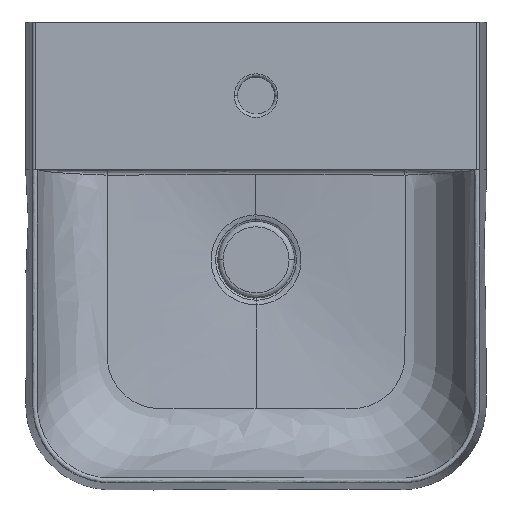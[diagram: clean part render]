
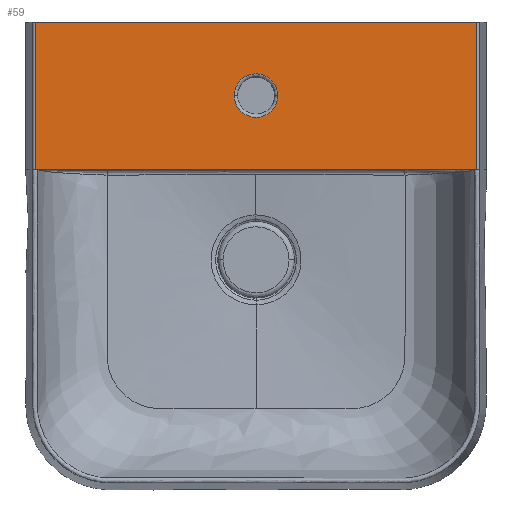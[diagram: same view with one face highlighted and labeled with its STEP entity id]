
A CAD part, top view. The second image highlights one B-rep face of the part: STEP entity #59.
In plain terms, the highlighted planar face has unit normal (0, 0, 1).
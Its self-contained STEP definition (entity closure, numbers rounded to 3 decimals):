
#59=ADVANCED_FACE('',(#127,#125),#1013,.T.);
#125=FACE_BOUND('',#194,.T.);
#127=FACE_OUTER_BOUND('',#193,.T.);
#193=EDGE_LOOP('',(#261,#262,#263,#264));
#194=EDGE_LOOP('',(#265,#266));
#261=ORIENTED_EDGE('',*,*,#562,.F.);
#262=ORIENTED_EDGE('',*,*,#563,.F.);
#263=ORIENTED_EDGE('',*,*,#561,.F.);
#264=ORIENTED_EDGE('',*,*,#564,.F.);
#265=ORIENTED_EDGE('',*,*,#694,.F.);
#266=ORIENTED_EDGE('',*,*,#666,.F.);
#561=EDGE_CURVE('',#868,#867,#792,.T.);
#562=EDGE_CURVE('',#865,#866,#793,.T.);
#563=EDGE_CURVE('',#867,#865,#794,.T.);
#564=EDGE_CURVE('',#866,#868,#795,.T.);
#666=EDGE_CURVE('',#925,#944,#752,.T.);
#694=EDGE_CURVE('',#944,#925,#774,.T.);
#752=(
BOUNDED_CURVE()
B_SPLINE_CURVE(3,(#26101,#26102,#26103,#26104,#26105,#26106,#26107,#26108,
#26109,#26110,#26111,#26112,#26113,#26114,#26115,#26116,#26117,#26118,#26119,
#26120,#26121,#26122,#26123,#26124,#26125),.UNSPECIFIED.,.F.,.F.)
B_SPLINE_CURVE_WITH_KNOTS((4,3,3,3,3,3,3,3,4),(0.,7.728,16.101,
24.474,32.201,39.929,48.302,56.675,
64.402),.UNSPECIFIED.)
CURVE()
GEOMETRIC_REPRESENTATION_ITEM()
RATIONAL_B_SPLINE_CURVE((1.,1.,1.,1.,1.,1.,1.,
1.,1.,1.,1.,
1.,1.,1.,1.,1.,1.,
1.,1.,1.,1.,1.,1.,1.,1.))
REPRESENTATION_ITEM('')
);
#774=(
BOUNDED_CURVE()
B_SPLINE_CURVE(3,(#26485,#26486,#26487,#26488,#26489,#26490,#26491,#26492,
#26493,#26494,#26495,#26496,#26497,#26498,#26499,#26500,#26501,#26502,#26503,
#26504,#26505,#26506,#26507,#26508,#26509),.UNSPECIFIED.,.F.,.F.)
B_SPLINE_CURVE_WITH_KNOTS((4,3,3,3,3,3,3,3,4),(64.402,72.13,
80.503,88.876,96.603,104.331,112.704,
121.077,128.804),.UNSPECIFIED.)
CURVE()
GEOMETRIC_REPRESENTATION_ITEM()
RATIONAL_B_SPLINE_CURVE((1.,1.,1.,1.,1.,
1.,1.,1.,1.,1.,1.,1.,1.,1.,1.,1.,1.,1.,1.,1.,1.,1.,1.,1.,
1.))
REPRESENTATION_ITEM('')
);
#792=B_SPLINE_CURVE_WITH_KNOTS('',1,(#23179,#23180),.UNSPECIFIED.,.F.,.F.,
(2,2),(-639.9,-228.41),.UNSPECIFIED.);
#793=B_SPLINE_CURVE_WITH_KNOTS('',1,(#23181,#23182),.UNSPECIFIED.,.F.,.F.,
(2,2),(228.41,639.9),.UNSPECIFIED.);
#794=B_SPLINE_CURVE_WITH_KNOTS('',1,(#23183,#23184),.UNSPECIFIED.,.F.,.F.,
(2,2),(-139.038,0.),.UNSPECIFIED.);
#795=B_SPLINE_CURVE_WITH_KNOTS('',1,(#23185,#23186),.UNSPECIFIED.,.F.,.F.,
(2,2),(0.,139.038),.UNSPECIFIED.);
#865=VERTEX_POINT('',#23099);
#866=VERTEX_POINT('',#23100);
#867=VERTEX_POINT('',#23101);
#868=VERTEX_POINT('',#23102);
#925=VERTEX_POINT('',#23159);
#944=VERTEX_POINT('',#23178);
#1013=PLANE('',#1043);
#1043=AXIS2_PLACEMENT_3D('',#1072,#1057,$);
#1057=DIRECTION('',(0.,0.,1.));
#1072=CARTESIAN_POINT('',(-220.281,71.174,125.786));
#23099=CARTESIAN_POINT('',(195.986,71.174,125.786));
#23100=CARTESIAN_POINT('',(-219.903,71.174,125.786));
#23101=CARTESIAN_POINT('',(195.986,210.212,125.786));
#23102=CARTESIAN_POINT('',(-219.903,210.212,125.786));
#23159=CARTESIAN_POINT('',(8.541,140.863,125.786));
#23178=CARTESIAN_POINT('',(-32.459,140.863,125.786));
#23179=CARTESIAN_POINT('',(-219.903,210.212,125.786));
#23180=CARTESIAN_POINT('',(195.986,210.212,125.786));
#23181=CARTESIAN_POINT('',(195.986,71.174,125.786));
#23182=CARTESIAN_POINT('',(-219.903,71.174,125.786));
#23183=CARTESIAN_POINT('',(195.986,210.212,125.786));
#23184=CARTESIAN_POINT('',(195.986,71.174,125.786));
#23185=CARTESIAN_POINT('',(-219.903,71.174,125.786));
#23186=CARTESIAN_POINT('',(-219.903,210.212,125.786));
#26101=CARTESIAN_POINT('',(8.541,140.863,125.786));
#26102=CARTESIAN_POINT('',(8.542,143.438,125.786));
#26103=CARTESIAN_POINT('',(8.051,146.014,125.786));
#26104=CARTESIAN_POINT('',(7.103,148.409,125.786));
#26105=CARTESIAN_POINT('',(6.075,151.004,125.786));
#26106=CARTESIAN_POINT('',(4.511,153.386,125.786));
#26107=CARTESIAN_POINT('',(2.538,155.359,125.786));
#26108=CARTESIAN_POINT('',(0.564,157.332,125.786));
#26109=CARTESIAN_POINT('',(-1.818,158.897,125.786));
#26110=CARTESIAN_POINT('',(-4.413,159.924,125.786));
#26111=CARTESIAN_POINT('',(-6.807,160.872,125.786));
#26112=CARTESIAN_POINT('',(-9.383,161.363,125.786));
#26113=CARTESIAN_POINT('',(-11.959,161.363,125.786));
#26114=CARTESIAN_POINT('',(-14.535,161.363,125.786));
#26115=CARTESIAN_POINT('',(-17.11,160.872,125.786));
#26116=CARTESIAN_POINT('',(-19.505,159.924,125.786));
#26117=CARTESIAN_POINT('',(-22.1,158.897,125.786));
#26118=CARTESIAN_POINT('',(-24.482,157.332,125.786));
#26119=CARTESIAN_POINT('',(-26.455,155.359,125.786));
#26120=CARTESIAN_POINT('',(-28.428,153.386,125.786));
#26121=CARTESIAN_POINT('',(-29.993,151.004,125.786));
#26122=CARTESIAN_POINT('',(-31.02,148.409,125.786));
#26123=CARTESIAN_POINT('',(-31.968,146.014,125.786));
#26124=CARTESIAN_POINT('',(-32.459,143.438,125.786));
#26125=CARTESIAN_POINT('',(-32.459,140.863,125.786));
#26485=CARTESIAN_POINT('',(-32.459,140.863,125.786));
#26486=CARTESIAN_POINT('',(-32.459,138.287,125.786));
#26487=CARTESIAN_POINT('',(-31.968,135.711,125.786));
#26488=CARTESIAN_POINT('',(-31.02,133.317,125.786));
#26489=CARTESIAN_POINT('',(-29.993,130.722,125.786));
#26490=CARTESIAN_POINT('',(-28.428,128.34,125.786));
#26491=CARTESIAN_POINT('',(-26.455,126.366,125.786));
#26492=CARTESIAN_POINT('',(-24.482,124.393,125.786));
#26493=CARTESIAN_POINT('',(-22.1,122.829,125.786));
#26494=CARTESIAN_POINT('',(-19.505,121.801,125.786));
#26495=CARTESIAN_POINT('',(-17.11,120.853,125.786));
#26496=CARTESIAN_POINT('',(-14.535,120.362,125.786));
#26497=CARTESIAN_POINT('',(-11.959,120.362,125.786));
#26498=CARTESIAN_POINT('',(-9.383,120.362,125.786));
#26499=CARTESIAN_POINT('',(-6.807,120.853,125.786));
#26500=CARTESIAN_POINT('',(-4.413,121.801,125.786));
#26501=CARTESIAN_POINT('',(-1.818,122.829,125.786));
#26502=CARTESIAN_POINT('',(0.564,124.393,125.786));
#26503=CARTESIAN_POINT('',(2.538,126.366,125.786));
#26504=CARTESIAN_POINT('',(4.511,128.34,125.786));
#26505=CARTESIAN_POINT('',(6.075,130.722,125.786));
#26506=CARTESIAN_POINT('',(7.103,133.317,125.786));
#26507=CARTESIAN_POINT('',(8.051,135.711,125.786));
#26508=CARTESIAN_POINT('',(8.542,138.287,125.786));
#26509=CARTESIAN_POINT('',(8.541,140.863,125.786));
